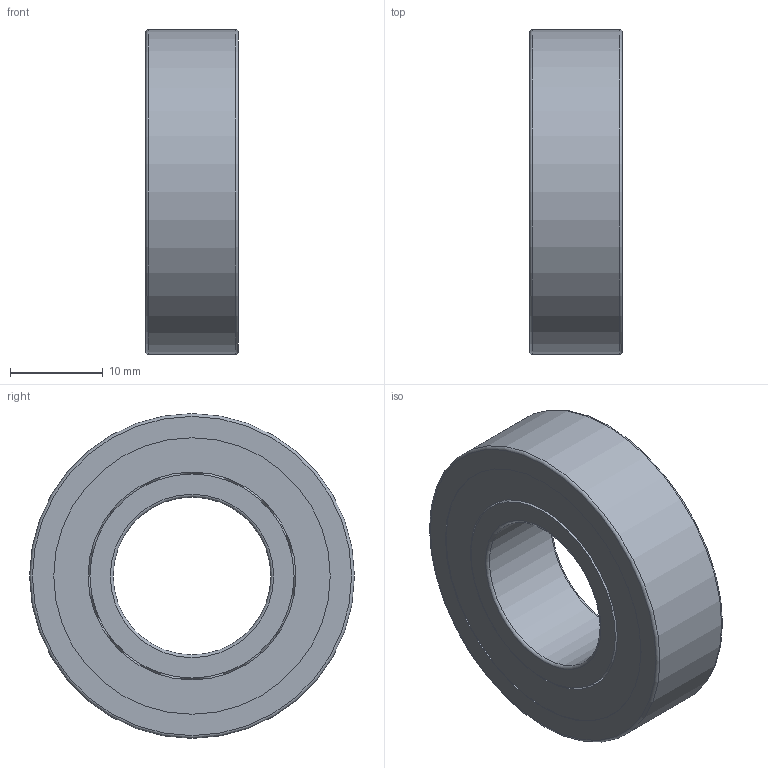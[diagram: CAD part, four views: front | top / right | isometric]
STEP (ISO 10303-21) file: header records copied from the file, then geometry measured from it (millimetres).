
FILE_DESCRIPTION(/* description */ (''),/* implementation_level */ '2;1');
FILE_NAME(/* name */ 'KH_6003_TA.step',/* time_stamp */ '2013-03-07T07:04:03+01:00',/* author */ ('Marian'),/* organization */ ('GMN'),/* preprocessor_version */ 'ST-DEVELOPER v11',/* originating_system */ 'SIEMENS UGS NX 6.0',/* authorisation */ '');
FILE_SCHEMA (('CONFIG_CONTROL_DESIGN'));
Length unit declared in the file: millimetre
Products named in the file (1): KH_6003_TA
Bounding box: 10 x 35 x 35 mm (x, y, z)
Volume: 5884.4 mm3; surface area: 7407.1 mm2
Topology: 20 solids, 20 shells, 62 faces, 146 edges, 94 vertices
Faces by surface type: cylinder 28, sphere 15, plane 12, torus 6, cone 1
Full cylindrical faces by diameter (mm): 4.169 x15, 17 x1, 22 x1, 22.4 x1, 22.7 x1, 23.1 x1, 25.049 x1, 27.398 x1, 27.798 x1, 29.8 x2, 30.4 x2, 35 x1
Entity records: 3052 total; most frequent: CARTESIAN_POINT 1912, DIRECTION 190, FACE_BOUND 139, EDGE_LOOP 124, ORIENTED_EDGE 124, AXIS2_PLACEMENT_3D 95, VERTEX_POINT 77, ADVANCED_FACE 62
